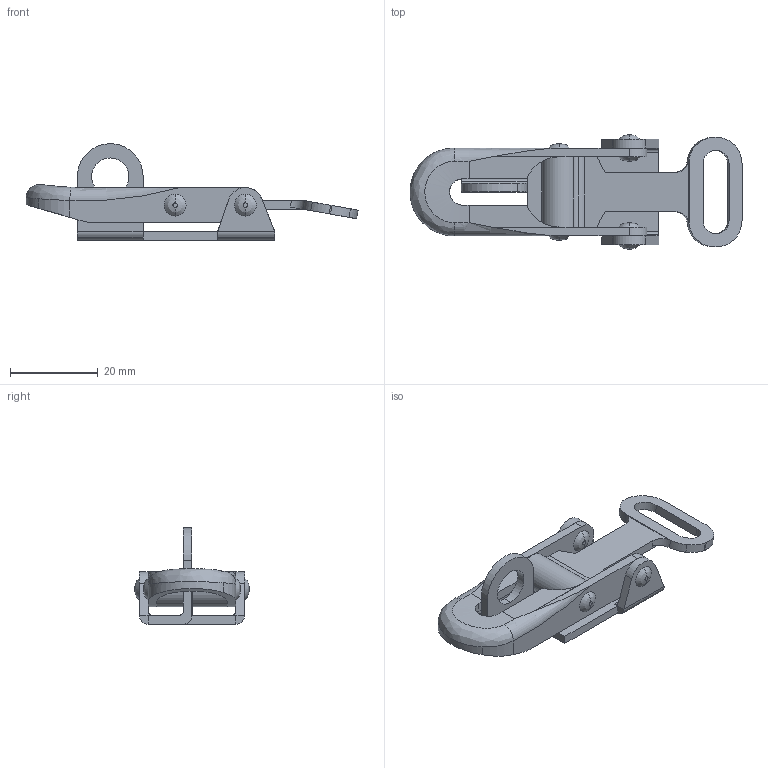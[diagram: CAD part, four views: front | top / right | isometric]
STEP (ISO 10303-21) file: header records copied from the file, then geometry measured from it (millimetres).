
FILE_DESCRIPTION((''),'2;1');
FILE_NAME('2006.stp','2023-10-19T09:24:25',(''),(''),'Mechanical Desktop 2006','Mechanical Desktop 2006',', , ');
FILE_SCHEMA(('CONFIG_CONTROL_DESIGN'));
Length unit declared in the file: millimetre
Products named in the file (6): 2006; NIETE SERIE 2050 A; NIETE 2 SERIE 2050A; TEIL1; ~~TEIL1; ~~~TEIL1
Assembly tree (6 placements, depth 2):
  2006
    NIETE SERIE 2050 A  x2
    NIETE 2 SERIE 2050A
    TEIL1
    ~~TEIL1
    ~~~TEIL1
Bounding box: 75.67 x 26 x 21.99 mm (x, y, z)
Volume: 6160 mm3; surface area: 7781.3 mm2
Topology: 6 solids, 6 shells, 160 faces, 418 edges, 276 vertices
Faces by surface type: cylinder 81, plane 63, bspline 14, torus 2
Entity records: 5379 total; most frequent: CARTESIAN_POINT 1328, DIRECTION 859, ORIENTED_EDGE 796, EDGE_CURVE 398, AXIS2_PLACEMENT_3D 333, VERTEX_POINT 262, VECTOR 193, LINE 193
